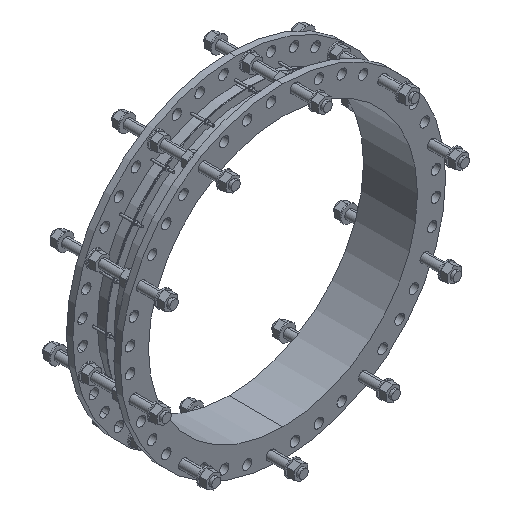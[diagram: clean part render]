
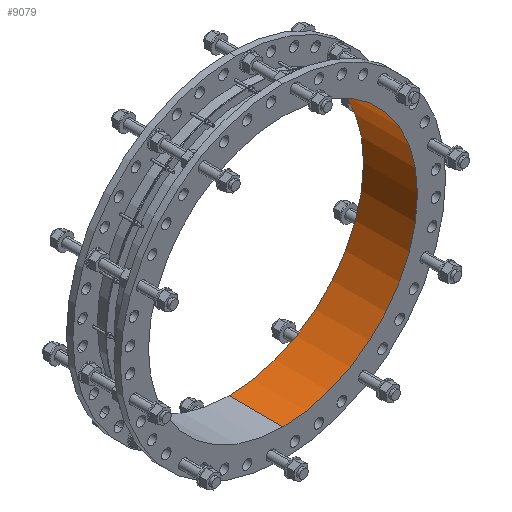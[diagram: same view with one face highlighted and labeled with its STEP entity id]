
A CAD part, isometric view. The second image highlights one B-rep face of the part: STEP entity #9079.
In plain terms, the highlighted cylindrical face has radius 798 mm (diameter 1596 mm), a partial arc.
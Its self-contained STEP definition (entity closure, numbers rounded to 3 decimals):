
#7=DIRECTION('',(0.,-1.,0.));
#8=VECTOR('',#7,320.);
#9=CARTESIAN_POINT('',(0.,0.,-798.));
#10=LINE('',#9,#8);
#11=CARTESIAN_POINT('',(0.,0.,0.));
#12=DIRECTION('',(0.,-1.,0.));
#13=DIRECTION('',(0.,0.,-1.));
#14=AXIS2_PLACEMENT_3D('',#11,#12,#13);
#16=DIRECTION('',(0.,-1.,0.));
#17=VECTOR('',#16,320.);
#18=CARTESIAN_POINT('',(0.,0.,798.));
#19=LINE('',#18,#17);
#2754=CARTESIAN_POINT('',(0.,-320.,0.));
#2755=DIRECTION('',(0.,-1.,0.));
#2756=DIRECTION('',(0.,0.,-1.));
#2757=AXIS2_PLACEMENT_3D('',#2754,#2755,#2756);
#7310=CARTESIAN_POINT('',(0.,0.,-798.));
#7311=CARTESIAN_POINT('',(0.,-320.,-798.));
#7312=VERTEX_POINT('',#7310);
#7313=VERTEX_POINT('',#7311);
#7330=CARTESIAN_POINT('',(0.,0.,798.));
#7331=CARTESIAN_POINT('',(0.,-320.,798.));
#7332=VERTEX_POINT('',#7330);
#7333=VERTEX_POINT('',#7331);
#9066=CARTESIAN_POINT('',(0.,-336.,0.));
#9067=DIRECTION('',(0.,1.,0.));
#9068=DIRECTION('',(0.,0.,-1.));
#9069=AXIS2_PLACEMENT_3D('',#9066,#9067,#9068);
#9070=CYLINDRICAL_SURFACE('',#9069,798.);
#9071=ORIENTED_EDGE('',*,*,#9055,.F.);
#9073=ORIENTED_EDGE('',*,*,#9072,.T.);
#9074=ORIENTED_EDGE('',*,*,#9059,.T.);
#9076=ORIENTED_EDGE('',*,*,#9075,.F.);
#9077=EDGE_LOOP('',(#9071,#9073,#9074,#9076));
#9078=FACE_OUTER_BOUND('',#9077,.F.);
#9079=ADVANCED_FACE('',(#9078),#9070,.F.);
#15=CIRCLE('',#14,798.);
#2758=CIRCLE('',#2757,798.);
#9055=EDGE_CURVE('',#7312,#7313,#10,.T.);
#9059=EDGE_CURVE('',#7332,#7333,#19,.T.);
#9072=EDGE_CURVE('',#7312,#7332,#15,.T.);
#9075=EDGE_CURVE('',#7313,#7333,#2758,.T.);
